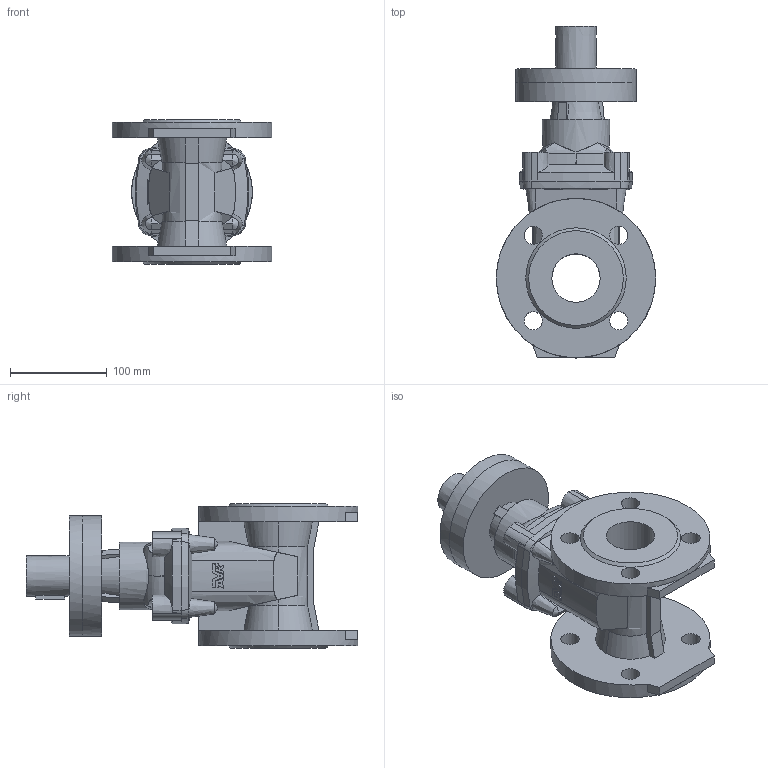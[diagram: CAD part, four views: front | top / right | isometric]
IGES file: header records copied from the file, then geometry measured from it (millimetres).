
Start section: SolidWorks IGES file using analytic representation for surfaces
Global section: file name: \\avksan2\techshare\PBM outline export from Enovia\O_15_40_DN050_X1X_AA0.igs; native system: SolidWorks 2012; preprocessor: SolidWorks 2012; author: pbm; date: 170310.085834; units: millimetre
Bounding box: 165 x 343.5 x 150 mm (x, y, z)
Surface area: 244284 mm2 (no closed solid volume)
Topology: 0 solids, 0 shells, 285 faces, 1590 edges, 1545 vertices
Faces by surface type: bspline 152, revolution 133
